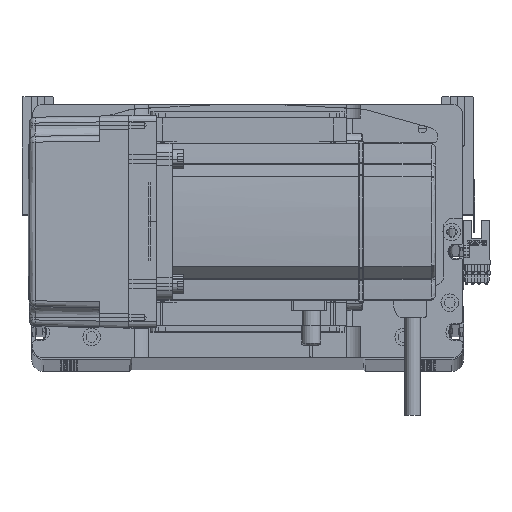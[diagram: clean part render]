
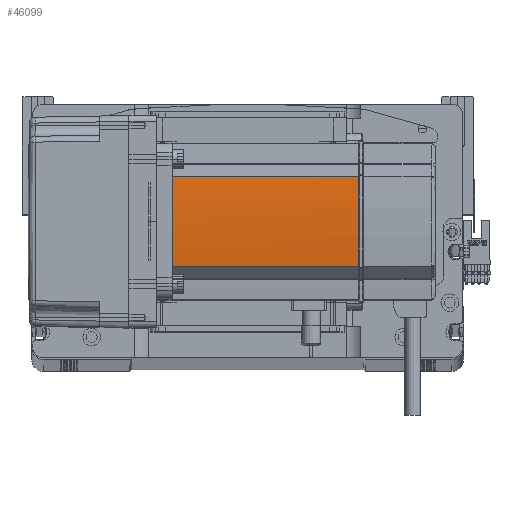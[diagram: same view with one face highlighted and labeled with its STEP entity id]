
A CAD part, top view. The second image highlights one B-rep face of the part: STEP entity #46099.
In plain terms, the highlighted cylindrical face has radius 270 mm (diameter 540 mm), a partial arc.
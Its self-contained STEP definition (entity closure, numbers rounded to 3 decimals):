
#640 = FACE_OUTER_BOUND ( 'NONE', #15195, .T. ) ;
#3506 = EDGE_CURVE ( 'NONE', #15305, #31797, #59986, .T. ) ;
#3772 = CARTESIAN_POINT ( 'NONE',  ( 40., 0.127, 134. ) ) ;
#4661 = VERTEX_POINT ( 'NONE', #3772 ) ;
#4986 = DIRECTION ( 'NONE',  ( 0., 0., -1. ) ) ;
#7283 = DIRECTION ( 'NONE',  ( 0., 0., -1. ) ) ;
#8938 = CARTESIAN_POINT ( 'NONE',  ( -230., 0., 39. ) ) ;
#9602 = ORIENTED_EDGE ( 'NONE', *, *, #44177, .T. ) ;
#10530 = ORIENTED_EDGE ( 'NONE', *, *, #3506, .T. ) ;
#10988 = LINE ( 'NONE', #38256, #51028 ) ;
#11606 = AXIS2_PLACEMENT_3D ( 'NONE', #57379, #29240, #33712 ) ;
#11620 = CARTESIAN_POINT ( 'NONE',  ( 40., 0.042, 134. ) ) ;
#12275 = ORIENTED_EDGE ( 'NONE', *, *, #35005, .T. ) ;
#13557 = ORIENTED_EDGE ( 'NONE', *, *, #58759, .T. ) ;
#15195 = EDGE_LOOP ( 'NONE', ( #12275, #23289, #9602, #13557, #27081, #10530 ) ) ;
#15305 = VERTEX_POINT ( 'NONE', #21094 ) ;
#20143 = CARTESIAN_POINT ( 'NONE',  ( 40., -0.127, 134. ) ) ;
#21094 = CARTESIAN_POINT ( 'NONE',  ( 40., -0.127, 134. ) ) ;
#23232 = B_SPLINE_CURVE_WITH_KNOTS ( 'NONE', 3,
 ( #20143, #57188, #11620, #43940 ),
 .UNSPECIFIED., .F., .F.,
 ( 4, 4 ),
 ( 0., 1. ),
 .UNSPECIFIED. ) ;
#23289 = ORIENTED_EDGE ( 'NONE', *, *, #37007, .F. ) ;
#23453 = VERTEX_POINT ( 'NONE', #27630 ) ;
#23800 = DIRECTION ( 'NONE',  ( 0., 0., 1. ) ) ;
#25350 = CARTESIAN_POINT ( 'NONE',  ( 39.042, 22.724, 39. ) ) ;
#25501 = CARTESIAN_POINT ( 'NONE',  ( -230., 0., 134. ) ) ;
#27081 = ORIENTED_EDGE ( 'NONE', *, *, #43429, .F. ) ;
#27630 = CARTESIAN_POINT ( 'NONE',  ( 39.042, 22.724, 134. ) ) ;
#28607 = AXIS2_PLACEMENT_3D ( 'NONE', #52423, #33820, #38563 ) ;
#29240 = DIRECTION ( 'NONE',  ( 0., 0., -1. ) ) ;
#31797 = VERTEX_POINT ( 'NONE', #46794 ) ;
#33712 = DIRECTION ( 'NONE',  ( -1., 0., 0. ) ) ;
#33820 = DIRECTION ( 'NONE',  ( 0., 0., -1. ) ) ;
#35005 = EDGE_CURVE ( 'NONE', #31797, #57544, #10988, .T. ) ;
#37007 = EDGE_CURVE ( 'NONE', #55262, #57544, #54572, .T. ) ;
#38256 = CARTESIAN_POINT ( 'NONE',  ( 39.042, -22.724, 58. ) ) ;
#38563 = DIRECTION ( 'NONE',  ( -1., 0., 0. ) ) ;
#39584 = DIRECTION ( 'NONE',  ( -1., 0., 0. ) ) ;
#42152 = CARTESIAN_POINT ( 'NONE',  ( 39.042, 22.724, 58. ) ) ;
#42272 = DIRECTION ( 'NONE',  ( -1., 0., 0. ) ) ;
#43429 = EDGE_CURVE ( 'NONE', #15305, #4661, #23232, .T. ) ;
#43651 = AXIS2_PLACEMENT_3D ( 'NONE', #25501, #7283, #39584 ) ;
#43940 = CARTESIAN_POINT ( 'NONE',  ( 40., 0.127, 134. ) ) ;
#44177 = EDGE_CURVE ( 'NONE', #55262, #23453, #59052, .T. ) ;
#45331 = AXIS2_PLACEMENT_3D ( 'NONE', #8938, #56115, #42272 ) ;
#46099 = ADVANCED_FACE ( 'NONE', ( #640 ), #49393, .T. ) ;
#46794 = CARTESIAN_POINT ( 'NONE',  ( 39.042, -22.724, 134. ) ) ;
#49393 = CYLINDRICAL_SURFACE ( 'NONE', #11606, 270. ) ;
#50840 = CIRCLE ( 'NONE', #43651, 270. ) ;
#51028 = VECTOR ( 'NONE', #4986, 1000. ) ;
#52423 = CARTESIAN_POINT ( 'NONE',  ( -230., 0., 134. ) ) ;
#54262 = CARTESIAN_POINT ( 'NONE',  ( 39.042, -22.724, 39. ) ) ;
#54572 = CIRCLE ( 'NONE', #45331, 270. ) ;
#55262 = VERTEX_POINT ( 'NONE', #25350 ) ;
#56115 = DIRECTION ( 'NONE',  ( 0., 0., -1. ) ) ;
#57188 = CARTESIAN_POINT ( 'NONE',  ( 40., -0.042, 134. ) ) ;
#57379 = CARTESIAN_POINT ( 'NONE',  ( -230., 0., 58. ) ) ;
#57544 = VERTEX_POINT ( 'NONE', #54262 ) ;
#58353 = VECTOR ( 'NONE', #23800, 1000. ) ;
#58759 = EDGE_CURVE ( 'NONE', #23453, #4661, #50840, .T. ) ;
#59052 = LINE ( 'NONE', #42152, #58353 ) ;
#59986 = CIRCLE ( 'NONE', #28607, 270. ) ;
